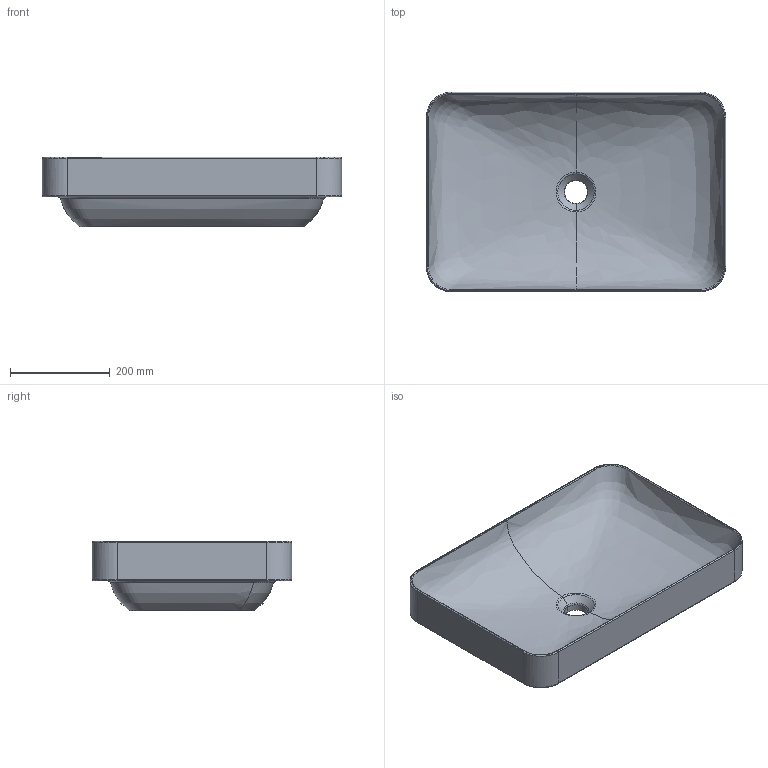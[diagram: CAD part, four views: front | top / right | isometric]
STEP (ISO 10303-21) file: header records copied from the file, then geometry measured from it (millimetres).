
FILE_DESCRIPTION(/* description */ (''),/* implementation_level */ '2;1');
FILE_NAME(/* name */ 'ESO60',/* time_stamp */ '2017-12-11T12:34:57+01:00',/* author */ (''),/* organization */ (''),/* preprocessor_version */ 'ST-DEVELOPER v15',/* originating_system */ '',/* authorisation */ '');
FILE_SCHEMA (('AUTOMOTIVE_DESIGN'));
Length unit declared in the file: millimetre
Products named in the file (1): Document
Bounding box: 600 x 400 x 140 mm (x, y, z)
Volume: 10198551.8 mm3; surface area: 754643.8 mm2
Topology: 1 solids, 1 shells, 55 faces, 146 edges, 94 vertices
Faces by surface type: bspline 48, plane 7
Entity records: 17005 total; most frequent: CARTESIAN_POINT 16140, ORIENTED_EDGE 292, EDGE_CURVE 146, VERTEX_POINT 94, B_SPLINE_CURVE_WITH_KNOTS 85, EDGE_LOOP 58, ADVANCED_FACE 55, FACE_OUTER_BOUND 55
